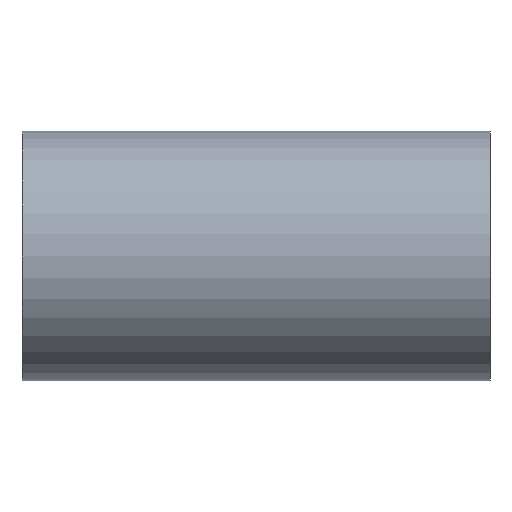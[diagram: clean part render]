
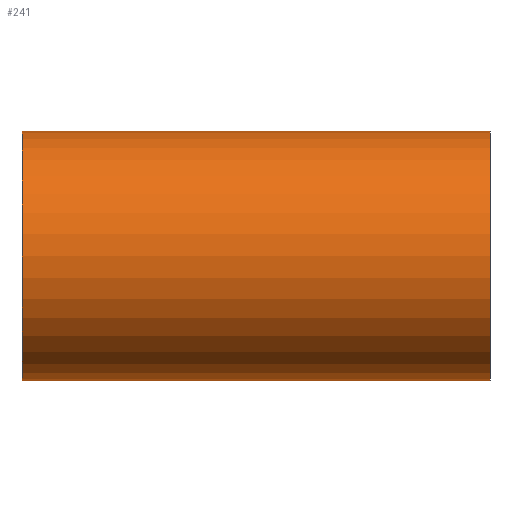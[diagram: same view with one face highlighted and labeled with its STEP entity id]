
A CAD part, front view. The second image highlights one B-rep face of the part: STEP entity #241.
In plain terms, the highlighted cylindrical face has radius 76.2 mm (diameter 152.4 mm), a partial arc.
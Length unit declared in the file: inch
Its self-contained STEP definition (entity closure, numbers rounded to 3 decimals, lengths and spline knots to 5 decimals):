
#29 = AXIS2_PLACEMENT_3D ( 'NONE', #341, #399, #706 ) ;
#31 = LINE ( 'NONE', #300, #667 ) ;
#36 = EDGE_CURVE ( 'NONE', #67, #323, #580, .T. ) ;
#67 = VERTEX_POINT ( 'NONE', #453 ) ;
#76 = EDGE_LOOP ( 'NONE', ( #635, #128, #379, #534 ) ) ;
#81 = LINE ( 'NONE', #663, #492 ) ;
#109 = EDGE_CURVE ( 'NONE', #325, #431, #572, .T. ) ;
#116 = CARTESIAN_POINT ( 'NONE',  ( 5.625, 0., 0. ) ) ;
#128 = ORIENTED_EDGE ( 'NONE', *, *, #109, .F. ) ;
#143 = AXIS2_PLACEMENT_3D ( 'NONE', #116, #408, #660 ) ;
#198 = CYLINDRICAL_SURFACE ( 'NONE', #537, 3. ) ;
#211 = EDGE_CURVE ( 'NONE', #325, #67, #31, .T. ) ;
#241 = ADVANCED_FACE ( 'NONE', ( #658 ), #198, .T. ) ;
#259 = CARTESIAN_POINT ( 'NONE',  ( 5.625, 0., 3. ) ) ;
#260 = CARTESIAN_POINT ( 'NONE',  ( -5.625, 0., -3. ) ) ;
#300 = CARTESIAN_POINT ( 'NONE',  ( 5.625, 0., 3. ) ) ;
#323 = VERTEX_POINT ( 'NONE', #260 ) ;
#325 = VERTEX_POINT ( 'NONE', #259 ) ;
#341 = CARTESIAN_POINT ( 'NONE',  ( -5.625, 0., 0. ) ) ;
#379 = ORIENTED_EDGE ( 'NONE', *, *, #211, .T. ) ;
#399 = DIRECTION ( 'NONE',  ( 1., 0., 0. ) ) ;
#408 = DIRECTION ( 'NONE',  ( 1., 0., 0. ) ) ;
#431 = VERTEX_POINT ( 'NONE', #587 ) ;
#453 = CARTESIAN_POINT ( 'NONE',  ( -5.625, 0., 3. ) ) ;
#492 = VECTOR ( 'NONE', #607, 39.37008 ) ;
#534 = ORIENTED_EDGE ( 'NONE', *, *, #36, .T. ) ;
#537 = AXIS2_PLACEMENT_3D ( 'NONE', #562, #568, #573 ) ;
#547 = EDGE_CURVE ( 'NONE', #431, #323, #81, .T. ) ;
#562 = CARTESIAN_POINT ( 'NONE',  ( 5.625, 0., 0. ) ) ;
#568 = DIRECTION ( 'NONE',  ( -1., 0., 0. ) ) ;
#572 = CIRCLE ( 'NONE', #143, 3. ) ;
#573 = DIRECTION ( 'NONE',  ( 0., 0., 1. ) ) ;
#580 = CIRCLE ( 'NONE', #29, 3. ) ;
#587 = CARTESIAN_POINT ( 'NONE',  ( 5.625, 0., -3. ) ) ;
#607 = DIRECTION ( 'NONE',  ( -1., 0., 0. ) ) ;
#635 = ORIENTED_EDGE ( 'NONE', *, *, #547, .F. ) ;
#658 = FACE_OUTER_BOUND ( 'NONE', #76, .T. ) ;
#660 = DIRECTION ( 'NONE',  ( 0., 0., -1. ) ) ;
#663 = CARTESIAN_POINT ( 'NONE',  ( 5.625, 0., -3. ) ) ;
#667 = VECTOR ( 'NONE', #678, 39.37008 ) ;
#678 = DIRECTION ( 'NONE',  ( -1., 0., 0. ) ) ;
#706 = DIRECTION ( 'NONE',  ( 0., 0., -1. ) ) ;
